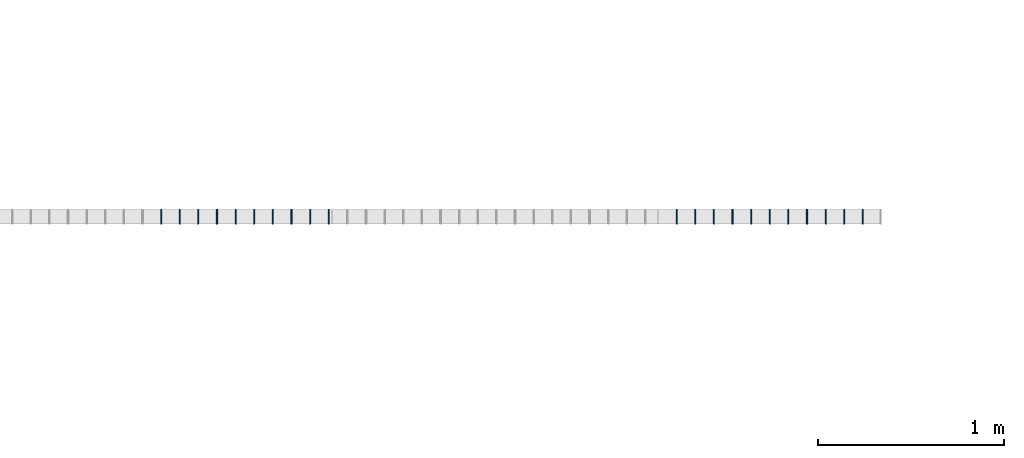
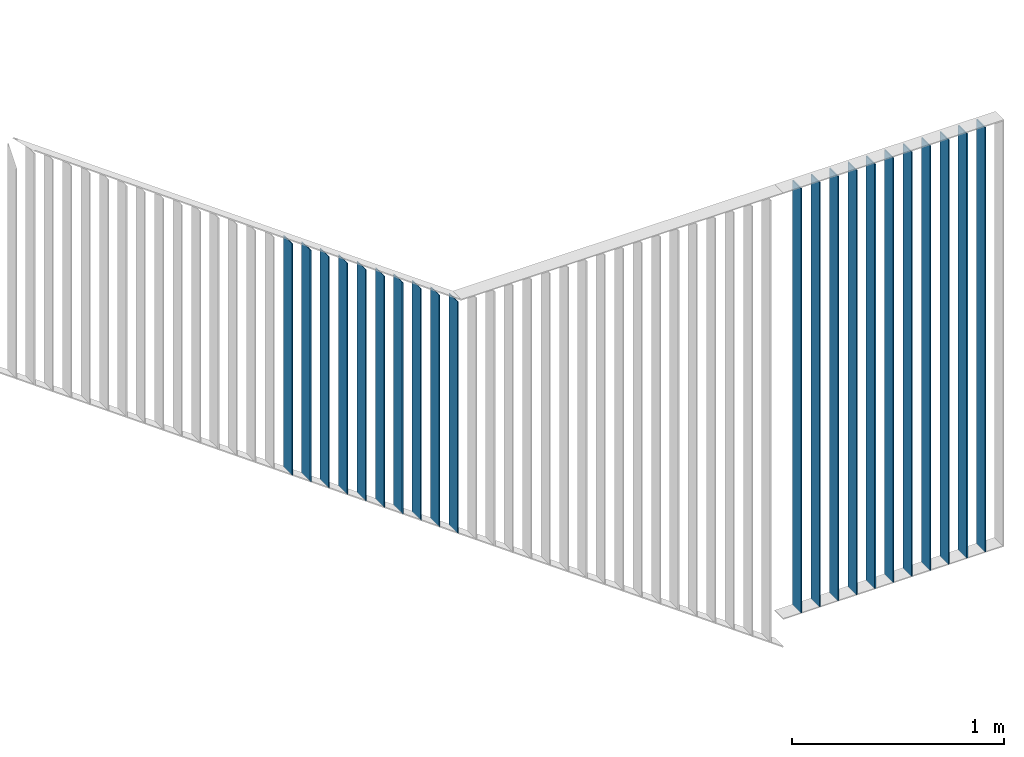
# One storey, part 2 of 260: 21 members, 1 element without a shape of its own.
"""IFC2X3 building model written with IfcOpenShell, lengths in millimetres."""

from ifc_helpers import new_model, entity, si_unit, converted_unit, derived_unit, money_unit, direction, frame, origin_with_axes, place, context, subcontext, project, spatial, faceted_brep, source, transform, mapped, material, type_object, type_shapes, element, aggregate, save


model = new_model("IFC2X3")

# Units and contexts
model_context = context("Model", 3, precision=0.01, world=origin_with_axes(), true_north=direction((0.0, 1.0)))
plan_context = context("Plan", 3, precision=0.01, world=origin_with_axes(), true_north=direction((0.0, 1.0)))
body_context = subcontext(model_context, "Body", "Model", "MODEL_VIEW")
ifc_project = project(units=[si_unit("LENGTHUNIT", "METRE", prefix="MILLI"), si_unit("AREAUNIT", "SQUARE_METRE"), si_unit("VOLUMEUNIT", "CUBIC_METRE"), converted_unit("PLANEANGLEUNIT", "DEGREE", entity("IfcPlaneAngleMeasure", 0.0174532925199), si_unit("PLANEANGLEUNIT", "RADIAN"), dimensions=[0, 0, 0, 0, 0, 0, 0]), money_unit("EUR"), converted_unit("TIMEUNIT", "Year", entity("IfcTimeMeasure", 31556926.0), si_unit("TIMEUNIT", "SECOND"), dimensions=[0, 0, 1, 0, 0, 0, 0]), si_unit("MASSUNIT", "GRAM", prefix="KILO"), si_unit("THERMODYNAMICTEMPERATUREUNIT", "DEGREE_CELSIUS"), si_unit("LUMINOUSINTENSITYUNIT", "LUMEN"), si_unit("ENERGYUNIT", "JOULE", prefix="MEGA"), derived_unit("THERMALCONDUCTANCEUNIT", [(si_unit("POWERUNIT", "WATT"), 1), (si_unit("LENGTHUNIT", "METRE"), -1), (si_unit("THERMODYNAMICTEMPERATUREUNIT", "KELVIN"), -1)]), derived_unit("SPECIFICHEATCAPACITYUNIT", [(si_unit("ENERGYUNIT", "JOULE"), 1), (si_unit("MASSUNIT", "GRAM", prefix="KILO"), -1), (si_unit("THERMODYNAMICTEMPERATUREUNIT", "KELVIN"), -1)]), derived_unit("MASSDENSITYUNIT", [(si_unit("MASSUNIT", "GRAM", prefix="KILO"), 1), (si_unit("VOLUMEUNIT", "CUBIC_METRE"), -1)])], contexts=[model_context, plan_context])

# Site, building, storey
site_placement = place(None, origin_with_axes())
site = spatial("IfcSite", under=ifc_project, at=site_placement, Name="Site", CompositionType="ELEMENT")
building_placement = place(site_placement, origin_with_axes())
building = spatial("IfcBuilding", under=site, at=building_placement, Name="Naam gebouw", CompositionType="ELEMENT")
storey_placement = place(building_placement, frame((0.0, 0.0, 3960.0), z_axis=(0.0, 0.0, 1.0), x_axis=(1.0, 0.0, 0.0)))
storey = spatial("IfcBuildingStorey", under=building, at=storey_placement, Name="verdieping", CompositionType="ELEMENT", Elevation=3960.0)

# Railing, members
railing_type = type_object("IfcRailingType", Name="Railing Type", PredefinedType="NOTDEFINED")
railing_placement = place(storey_placement, frame((45003.0750126, 9730.00004155, -3819.75532512), z_axis=(0.0, 0.0, 1.0), x_axis=(1.0, 0.0, 0.0)))
railing = element("IfcRailing", 1, at=railing_placement, inside=storey, type_object=railing_type, Name="_Reling-x", PredefinedType="NOTDEFINED")
ifc_material = material(Name="Metaal - RVS")
member_type = type_object("IfcMemberType", Name="IfcMember", PredefinedType="MEMBER")
shared_shape_1 = source(origin_with_axes(), body_context, "Body", "Brep", [
    faceted_brep([(40.0, 3.0, -2.16), (-40.0, 3.0, -2.16), (-40.0, 3.0, 1328.50847907), (40.0, 3.0, 1328.50847907), (40.0, -3.0, 2.16), (-40.0, -3.0, 2.16), (-40.0, -3.0, 1332.82847907), (40.0, -3.0, 1332.82847907)], [[[0, 1, 2, 3]], [[0, 4, 5, 1]], [[1, 5, 6, 2]], [[3, 2, 6, 7]], [[4, 0, 3, 7]], [[5, 4, 7, 6]]]),
])
member_1_placement = place(railing_placement, frame((5904.03925297, 274.999958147, 1570.87766256), z_axis=(0.0, 0.0, 1.0), x_axis=(1.0, 0.0, 0.0)))
member_1 = element("IfcMember", 2, at=member_1_placement, type_object=member_type, material=ifc_material, Name="_Spijlen-x", ObjectType="MEMBER", context=body_context, shape_type="MappedRepresentation", body=[
    mapped(shared_shape_1, transform((0.0, 0.0, 0.0), x_axis=(-1.19029169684e-10, -1.0, 0.0), y_axis=(1.0, -1.19029169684e-10, 0.0), z_axis=(0.0, 0.0, 1.0))),
])
member_2_placement = place(railing_placement, frame((6004.03925297, 274.999958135, 1498.87766256), z_axis=(0.0, 0.0, 1.0), x_axis=(1.0, 0.0, 0.0)))
member_2 = element("IfcMember", 3, at=member_2_placement, type_object=member_type, material=ifc_material, Name="_Spijlen-x", ObjectType="MEMBER", context=body_context, shape_type="MappedRepresentation", body=[
    mapped(shared_shape_1, transform((0.0, 0.0, 0.0), x_axis=(-1.19028725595e-10, -1.0, 0.0), y_axis=(1.0, -1.19028725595e-10, 0.0), z_axis=(0.0, 0.0, 1.0))),
])
member_3_placement = place(railing_placement, frame((6104.03925297, 274.999958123, 1426.87766256), z_axis=(0.0, 0.0, 1.0), x_axis=(1.0, 0.0, 0.0)))
member_3 = element("IfcMember", 4, at=member_3_placement, type_object=member_type, material=ifc_material, Name="_Spijlen-x", ObjectType="MEMBER", context=body_context, shape_type="MappedRepresentation", body=[
    mapped(shared_shape_1, transform((0.0, 0.0, 0.0), x_axis=(-1.19028059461e-10, -1.0, 0.0), y_axis=(1.0, -1.19028059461e-10, 0.0), z_axis=(0.0, 0.0, 1.0))),
])
member_4_placement = place(railing_placement, frame((6204.03925297, 274.999958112, 1354.87766256), z_axis=(0.0, 0.0, 1.0), x_axis=(1.0, 0.0, 0.0)))
member_4 = element("IfcMember", 5, at=member_4_placement, type_object=member_type, material=ifc_material, Name="_Spijlen-x", ObjectType="MEMBER", context=body_context, shape_type="MappedRepresentation", body=[
    mapped(shared_shape_1, transform((0.0, 0.0, 0.0), x_axis=(-1.19027171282e-10, -1.0, 0.0), y_axis=(1.0, -1.19027171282e-10, 0.0), z_axis=(0.0, 0.0, 1.0))),
])
member_5_placement = place(railing_placement, frame((6304.03925297, 274.9999581, 1282.87766256), z_axis=(0.0, 0.0, 1.0), x_axis=(1.0, 0.0, 0.0)))
member_5 = element("IfcMember", 6, at=member_5_placement, type_object=member_type, material=ifc_material, Name="_Spijlen-x", ObjectType="MEMBER", context=body_context, shape_type="MappedRepresentation", body=[
    mapped(shared_shape_1, transform((0.0, 0.0, 0.0), x_axis=(-1.19029169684e-10, -1.0, 0.0), y_axis=(1.0, -1.19029169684e-10, 0.0), z_axis=(0.0, 0.0, 1.0))),
])
member_6_placement = place(railing_placement, frame((6404.03925297, 274.999958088, 1210.87766256), z_axis=(0.0, 0.0, 1.0), x_axis=(1.0, 0.0, 0.0)))
member_6 = element("IfcMember", 7, at=member_6_placement, type_object=member_type, material=ifc_material, Name="_Spijlen-x", ObjectType="MEMBER", context=body_context, shape_type="MappedRepresentation", body=[
    mapped(shared_shape_1, transform((0.0, 0.0, 0.0), x_axis=(-1.19028281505e-10, -1.0, 0.0), y_axis=(1.0, -1.19028281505e-10, 0.0), z_axis=(0.0, 0.0, 1.0))),
])
member_7_placement = place(railing_placement, frame((6504.03925297, 274.999958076, 1138.87766256), z_axis=(0.0, 0.0, 1.0), x_axis=(1.0, 0.0, 0.0)))
member_7 = element("IfcMember", 8, at=member_7_placement, type_object=member_type, material=ifc_material, Name="_Spijlen-x", ObjectType="MEMBER", context=body_context, shape_type="MappedRepresentation", body=[
    mapped(shared_shape_1, transform((0.0, 0.0, 0.0), x_axis=(-1.19026505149e-10, -1.0, 0.0), y_axis=(1.0, -1.19026505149e-10, 0.0), z_axis=(0.0, 0.0, 1.0))),
])
member_8_placement = place(railing_placement, frame((6604.03925297, 274.999958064, 1066.87766256), z_axis=(0.0, 0.0, 1.0), x_axis=(1.0, 0.0, 0.0)))
member_8 = element("IfcMember", 9, at=member_8_placement, type_object=member_type, material=ifc_material, Name="_Spijlen-x", ObjectType="MEMBER", context=body_context, shape_type="MappedRepresentation", body=[
    mapped(shared_shape_1, transform((0.0, 0.0, 0.0), x_axis=(-1.1903139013e-10, -1.0, 0.0), y_axis=(1.0, -1.1903139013e-10, 0.0), z_axis=(0.0, 0.0, 1.0))),
])
member_9_placement = place(railing_placement, frame((6704.03925297, 274.999958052, 994.877662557), z_axis=(0.0, 0.0, 1.0), x_axis=(1.0, 0.0, 0.0)))
member_9 = element("IfcMember", 10, at=member_9_placement, type_object=member_type, material=ifc_material, Name="_Spijlen-x", ObjectType="MEMBER", context=body_context, shape_type="MappedRepresentation", body=[
    mapped(shared_shape_1, transform((0.0, 0.0, 0.0), x_axis=(-1.19029391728e-10, -1.0, 0.0), y_axis=(1.0, -1.19029391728e-10, 0.0), z_axis=(0.0, 0.0, 1.0))),
])
member_10_placement = place(railing_placement, frame((6804.03925297, 274.99995804, 922.877662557), z_axis=(0.0, 0.0, 1.0), x_axis=(1.0, 0.0, 0.0)))
member_10 = element("IfcMember", 11, at=member_10_placement, type_object=member_type, material=ifc_material, Name="_Spijlen-x", ObjectType="MEMBER", context=body_context, shape_type="MappedRepresentation", body=[
    mapped(shared_shape_1, transform((0.0, 0.0, 0.0), x_axis=(-1.19005632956e-10, -1.0, 0.0), y_axis=(1.0, -1.19005632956e-10, 0.0), z_axis=(0.0, 0.0, 1.0))),
])
shared_shape_2 = source(origin_with_axes(), body_context, "Body", "Brep", [
    faceted_brep([(40.0, 3.0, 0.0), (-40.0, 3.0, 0.0), (-40.0, 3.0, 2439.75532512), (40.0, 3.0, 2439.75532512), (40.0, -3.0, 0.0), (-40.0, -3.0, 0.0), (-40.0, -3.0, 2439.75532512), (40.0, -3.0, 2439.75532512)], [[[0, 1, 2, 3]], [[0, 4, 5, 1]], [[1, 5, 6, 2]], [[3, 2, 6, 7]], [[4, 0, 3, 7]], [[5, 4, 7, 6]]]),
])
type_shapes(member_type, [shared_shape_1, shared_shape_2])
member_11_placement = place(railing_placement, frame((8671.92489541, 274.99995783, -190.0), z_axis=(0.0, 0.0, 1.0), x_axis=(1.0, 0.0, 0.0)))
member_11 = element("IfcMember", 12, at=member_11_placement, type_object=member_type, material=ifc_material, Name="_Spijlen-x", ObjectType="MEMBER", context=body_context, shape_type="MappedRepresentation", body=[
    mapped(shared_shape_2, transform((0.0, 0.0, 0.0), x_axis=(0.0, -1.0, 0.0), y_axis=(1.0, 0.0, 0.0), z_axis=(0.0, 0.0, 1.0))),
])
member_12_placement = place(railing_placement, frame((8771.92489541, 274.99995783, -190.0), z_axis=(0.0, 0.0, 1.0), x_axis=(1.0, 0.0, 0.0)))
member_12 = element("IfcMember", 13, at=member_12_placement, type_object=member_type, material=ifc_material, Name="_Spijlen-x", ObjectType="MEMBER", context=body_context, shape_type="MappedRepresentation", body=[
    mapped(shared_shape_2, transform((0.0, 0.0, 0.0), x_axis=(0.0, -1.0, 0.0), y_axis=(1.0, 0.0, 0.0), z_axis=(0.0, 0.0, 1.0))),
])
member_13_placement = place(railing_placement, frame((8871.92489541, 274.99995783, -190.0), z_axis=(0.0, 0.0, 1.0), x_axis=(1.0, 0.0, 0.0)))
member_13 = element("IfcMember", 14, at=member_13_placement, type_object=member_type, material=ifc_material, Name="_Spijlen-x", ObjectType="MEMBER", context=body_context, shape_type="MappedRepresentation", body=[
    mapped(shared_shape_2, transform((0.0, 0.0, 0.0), x_axis=(0.0, -1.0, 0.0), y_axis=(1.0, 0.0, 0.0), z_axis=(0.0, 0.0, 1.0))),
])
member_14_placement = place(railing_placement, frame((8971.92489541, 274.99995783, -190.0), z_axis=(0.0, 0.0, 1.0), x_axis=(1.0, 0.0, 0.0)))
member_14 = element("IfcMember", 15, at=member_14_placement, type_object=member_type, material=ifc_material, Name="_Spijlen-x", ObjectType="MEMBER", context=body_context, shape_type="MappedRepresentation", body=[
    mapped(shared_shape_2, transform((0.0, 0.0, 0.0), x_axis=(0.0, -1.0, 0.0), y_axis=(1.0, 0.0, 0.0), z_axis=(0.0, 0.0, 1.0))),
])
member_15_placement = place(railing_placement, frame((9071.92489541, 274.99995783, -190.0), z_axis=(0.0, 0.0, 1.0), x_axis=(1.0, 0.0, 0.0)))
member_15 = element("IfcMember", 16, at=member_15_placement, type_object=member_type, material=ifc_material, Name="_Spijlen-x", ObjectType="MEMBER", context=body_context, shape_type="MappedRepresentation", body=[
    mapped(shared_shape_2, transform((0.0, 0.0, 0.0), x_axis=(0.0, -1.0, 0.0), y_axis=(1.0, 0.0, 0.0), z_axis=(0.0, 0.0, 1.0))),
])
member_16_placement = place(railing_placement, frame((9171.92489541, 274.99995783, -190.0), z_axis=(0.0, 0.0, 1.0), x_axis=(1.0, 0.0, 0.0)))
member_16 = element("IfcMember", 17, at=member_16_placement, type_object=member_type, material=ifc_material, Name="_Spijlen-x", ObjectType="MEMBER", context=body_context, shape_type="MappedRepresentation", body=[
    mapped(shared_shape_2, transform((0.0, 0.0, 0.0), x_axis=(0.0, -1.0, 0.0), y_axis=(1.0, 0.0, 0.0), z_axis=(0.0, 0.0, 1.0))),
])
member_17_placement = place(railing_placement, frame((9271.92489541, 274.99995783, -190.0), z_axis=(0.0, 0.0, 1.0), x_axis=(1.0, 0.0, 0.0)))
member_17 = element("IfcMember", 18, at=member_17_placement, type_object=member_type, material=ifc_material, Name="_Spijlen-x", ObjectType="MEMBER", context=body_context, shape_type="MappedRepresentation", body=[
    mapped(shared_shape_2, transform((0.0, 0.0, 0.0), x_axis=(0.0, -1.0, 0.0), y_axis=(1.0, 0.0, 0.0), z_axis=(0.0, 0.0, 1.0))),
])
member_18_placement = place(railing_placement, frame((9371.92489541, 274.99995783, -190.0), z_axis=(0.0, 0.0, 1.0), x_axis=(1.0, 0.0, 0.0)))
member_18 = element("IfcMember", 19, at=member_18_placement, type_object=member_type, material=ifc_material, Name="_Spijlen-x", ObjectType="MEMBER", context=body_context, shape_type="MappedRepresentation", body=[
    mapped(shared_shape_2, transform((0.0, 0.0, 0.0), x_axis=(0.0, -1.0, 0.0), y_axis=(1.0, 0.0, 0.0), z_axis=(0.0, 0.0, 1.0))),
])
member_19_placement = place(railing_placement, frame((9471.92489541, 274.99995783, -190.0), z_axis=(0.0, 0.0, 1.0), x_axis=(1.0, 0.0, 0.0)))
member_19 = element("IfcMember", 20, at=member_19_placement, type_object=member_type, material=ifc_material, Name="_Spijlen-x", ObjectType="MEMBER", context=body_context, shape_type="MappedRepresentation", body=[
    mapped(shared_shape_2, transform((0.0, 0.0, 0.0), x_axis=(0.0, -1.0, 0.0), y_axis=(1.0, 0.0, 0.0), z_axis=(0.0, 0.0, 1.0))),
])
member_20_placement = place(railing_placement, frame((9571.92489541, 274.99995783, -190.0), z_axis=(0.0, 0.0, 1.0), x_axis=(1.0, 0.0, 0.0)))
member_20 = element("IfcMember", 21, at=member_20_placement, type_object=member_type, material=ifc_material, Name="_Spijlen-x", ObjectType="MEMBER", context=body_context, shape_type="MappedRepresentation", body=[
    mapped(shared_shape_2, transform((0.0, 0.0, 0.0), x_axis=(0.0, -1.0, 0.0), y_axis=(1.0, 0.0, 0.0), z_axis=(0.0, 0.0, 1.0))),
])
member_21_placement = place(railing_placement, frame((9671.92489541, 274.99995783, -190.0), z_axis=(0.0, 0.0, 1.0), x_axis=(1.0, 0.0, 0.0)))
member_21 = element("IfcMember", 22, at=member_21_placement, type_object=member_type, material=ifc_material, Name="_Spijlen-x", ObjectType="MEMBER", context=body_context, shape_type="MappedRepresentation", body=[
    mapped(shared_shape_2, transform((0.0, 0.0, 0.0), x_axis=(0.0, -1.0, 0.0), y_axis=(1.0, 0.0, 0.0), z_axis=(0.0, 0.0, 1.0))),
])
aggregate(railing, [member_1, member_2, member_3, member_4, member_5, member_6, member_7, member_8, member_9, member_10, member_11, member_12, member_13, member_14, member_15, member_16, member_17, member_18, member_19, member_20, member_21])

save(model, "model.ifc")
